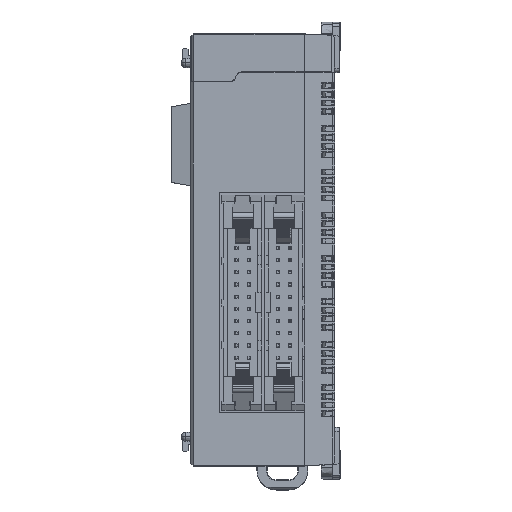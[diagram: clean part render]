
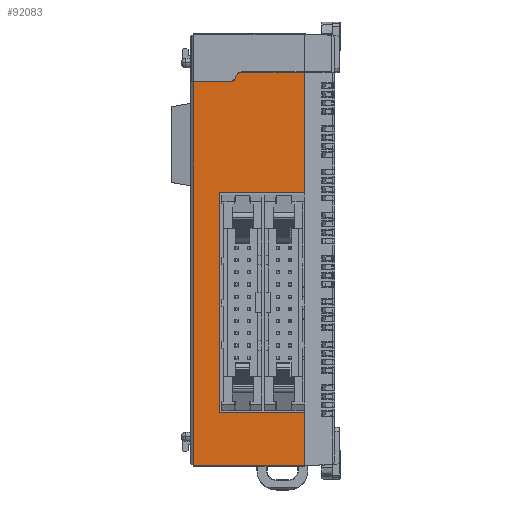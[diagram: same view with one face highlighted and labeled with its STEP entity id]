
A CAD part, top view. The second image highlights one B-rep face of the part: STEP entity #92083.
In plain terms, the highlighted planar face has unit normal (0, 0, 1).
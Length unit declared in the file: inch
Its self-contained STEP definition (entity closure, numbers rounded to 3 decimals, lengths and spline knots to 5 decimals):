
#890 = VECTOR ( 'NONE', #5526, 39.37008 ) ;
#1887 = EDGE_CURVE ( 'NONE', #13217, #110707, #106961, .T. ) ;
#4110 = CARTESIAN_POINT ( 'NONE',  ( -0.60325, 1.42035, 1.18413 ) ) ;
#4467 = VECTOR ( 'NONE', #98803, 39.37008 ) ;
#5526 = DIRECTION ( 'NONE',  ( 0., -1., 0. ) ) ;
#6201 = EDGE_CURVE ( 'NONE', #8551, #60807, #86489, .T. ) ;
#8336 = EDGE_CURVE ( 'NONE', #37599, #69762, #62231, .T. ) ;
#8551 = VERTEX_POINT ( 'NONE', #64874 ) ;
#9493 = VECTOR ( 'NONE', #21761, 39.37008 ) ;
#11255 = EDGE_CURVE ( 'NONE', #29942, #77417, #104400, .T. ) ;
#11435 = VERTEX_POINT ( 'NONE', #16092 ) ;
#13201 = CARTESIAN_POINT ( 'NONE',  ( -0.08661, 1.77468, 1.18413 ) ) ;
#13217 = VERTEX_POINT ( 'NONE', #63080 ) ;
#13926 = DIRECTION ( 'NONE',  ( -1., 0., 0. ) ) ;
#14593 = ORIENTED_EDGE ( 'NONE', *, *, #65060, .T. ) ;
#15268 = AXIS2_PLACEMENT_3D ( 'NONE', #34686, #80601, #36963 ) ;
#16092 = CARTESIAN_POINT ( 'NONE',  ( -0.63735, 1.44003, 1.18413 ) ) ;
#17474 = DIRECTION ( 'NONE',  ( 0., -1., 0. ) ) ;
#17483 = EDGE_CURVE ( 'NONE', #37599, #11435, #46956, .T. ) ;
#18536 = CARTESIAN_POINT ( 'NONE',  ( -1.01969, 1.77468, 1.18413 ) ) ;
#20283 = DIRECTION ( 'NONE',  ( 1., 0., 0. ) ) ;
#20299 = AXIS2_PLACEMENT_3D ( 'NONE', #18536, #29074, #20283 ) ;
#21761 = DIRECTION ( 'NONE',  ( 1., 0., 0. ) ) ;
#22356 = CARTESIAN_POINT ( 'NONE',  ( -0.78543, 0.47047, 1.18413 ) ) ;
#26126 = CARTESIAN_POINT ( 'NONE',  ( -0.08661, -1.76863, 1.18413 ) ) ;
#26231 = CARTESIAN_POINT ( 'NONE',  ( -0.67144, 1.38098, 1.18413 ) ) ;
#27359 = FACE_OUTER_BOUND ( 'NONE', #68412, .T. ) ;
#27551 = CARTESIAN_POINT ( 'NONE',  ( -0.08661, 1.77468, 1.18413 ) ) ;
#28692 = DIRECTION ( 'NONE',  ( 0., -1., 0. ) ) ;
#29074 = DIRECTION ( 'NONE',  ( 0., 0., 1. ) ) ;
#29942 = VERTEX_POINT ( 'NONE', #44272 ) ;
#32056 = ORIENTED_EDGE ( 'NONE', *, *, #34695, .F. ) ;
#34686 = CARTESIAN_POINT ( 'NONE',  ( -0.69418, 1.42035, 1.18413 ) ) ;
#34695 = EDGE_CURVE ( 'NONE', #108931, #71369, #113917, .T. ) ;
#34845 = ORIENTED_EDGE ( 'NONE', *, *, #93616, .F. ) ;
#36833 = CARTESIAN_POINT ( 'NONE',  ( -0.66008, 1.40066, 1.18413 ) ) ;
#36963 = DIRECTION ( 'NONE',  ( 0., -1., 0. ) ) ;
#37599 = VERTEX_POINT ( 'NONE', #36833 ) ;
#39318 = CIRCLE ( 'NONE', #78868, 0.03937 ) ;
#40184 = LINE ( 'NONE', #13201, #890 ) ;
#42648 = DIRECTION ( 'NONE',  ( 1., 0., 0. ) ) ;
#42737 = CARTESIAN_POINT ( 'NONE',  ( -1., -1.76863, 1.18413 ) ) ;
#44197 = CARTESIAN_POINT ( 'NONE',  ( -0.08661, 1.45972, 1.18413 ) ) ;
#44272 = CARTESIAN_POINT ( 'NONE',  ( -0.08661, 0.47047, 1.18413 ) ) ;
#46956 = LINE ( 'NONE', #101110, #54718 ) ;
#46976 = DIRECTION ( 'NONE',  ( 0., -1., 0. ) ) ;
#52846 = CARTESIAN_POINT ( 'NONE',  ( -0.08661, 1.45972, 1.18413 ) ) ;
#54046 = VECTOR ( 'NONE', #42648, 39.37008 ) ;
#54718 = VECTOR ( 'NONE', #56346, 39.37008 ) ;
#56276 = VECTOR ( 'NONE', #96466, 39.37008 ) ;
#56346 = DIRECTION ( 'NONE',  ( 0.5, 0.866, 0. ) ) ;
#57296 = EDGE_CURVE ( 'NONE', #71369, #60807, #40184, .T. ) ;
#58212 = ORIENTED_EDGE ( 'NONE', *, *, #17483, .F. ) ;
#59309 = CARTESIAN_POINT ( 'NONE',  ( -1.01969, -1.76863, 1.18413 ) ) ;
#60807 = VERTEX_POINT ( 'NONE', #26126 ) ;
#60847 = LINE ( 'NONE', #26231, #54046 ) ;
#62231 = CIRCLE ( 'NONE', #15268, 0.03937 ) ;
#62988 = VECTOR ( 'NONE', #17474, 39.37008 ) ;
#63080 = CARTESIAN_POINT ( 'NONE',  ( -0.60325, 1.45972, 1.18413 ) ) ;
#64874 = CARTESIAN_POINT ( 'NONE',  ( -1., -1.76863, 1.18413 ) ) ;
#65060 = EDGE_CURVE ( 'NONE', #111839, #8551, #70386, .T. ) ;
#65808 = LINE ( 'NONE', #22356, #112610 ) ;
#67427 = ORIENTED_EDGE ( 'NONE', *, *, #57296, .F. ) ;
#68154 = ORIENTED_EDGE ( 'NONE', *, *, #11255, .F. ) ;
#68412 = EDGE_LOOP ( 'NONE', ( #68154, #86407, #108341, #84535, #58212, #84951, #113962, #14593, #74728, #67427, #32056, #34845 ) ) ;
#69762 = VERTEX_POINT ( 'NONE', #102249 ) ;
#70386 = LINE ( 'NONE', #42737, #62988 ) ;
#71369 = VERTEX_POINT ( 'NONE', #95536 ) ;
#73789 = PLANE ( 'NONE',  #20299 ) ;
#74728 = ORIENTED_EDGE ( 'NONE', *, *, #6201, .T. ) ;
#75543 = CARTESIAN_POINT ( 'NONE',  ( -1., 1.38098, 1.18413 ) ) ;
#77417 = VERTEX_POINT ( 'NONE', #80478 ) ;
#77689 = CARTESIAN_POINT ( 'NONE',  ( -0.78543, -1.33661, 1.18413 ) ) ;
#78868 = AXIS2_PLACEMENT_3D ( 'NONE', #4110, #100565, #46976 ) ;
#80478 = CARTESIAN_POINT ( 'NONE',  ( -0.78543, 0.47047, 1.18413 ) ) ;
#80601 = DIRECTION ( 'NONE',  ( 0., 0., -1. ) ) ;
#82662 = EDGE_CURVE ( 'NONE', #13217, #11435, #39318, .T. ) ;
#83595 = DIRECTION ( 'NONE',  ( 0., -1., 0. ) ) ;
#84535 = ORIENTED_EDGE ( 'NONE', *, *, #82662, .T. ) ;
#84951 = ORIENTED_EDGE ( 'NONE', *, *, #8336, .T. ) ;
#86407 = ORIENTED_EDGE ( 'NONE', *, *, #106619, .F. ) ;
#86489 = LINE ( 'NONE', #59309, #9493 ) ;
#92023 = EDGE_CURVE ( 'NONE', #111839, #69762, #60847, .T. ) ;
#92083 = ADVANCED_FACE ( 'NONE', ( #27359 ), #73789, .T. ) ;
#93616 = EDGE_CURVE ( 'NONE', #77417, #108931, #65808, .T. ) ;
#94532 = CARTESIAN_POINT ( 'NONE',  ( -0.78543, 0.47047, 1.18413 ) ) ;
#95536 = CARTESIAN_POINT ( 'NONE',  ( -0.08661, -1.33661, 1.18413 ) ) ;
#96466 = DIRECTION ( 'NONE',  ( 1., 0., 0. ) ) ;
#98803 = DIRECTION ( 'NONE',  ( 1., 0., 0. ) ) ;
#100565 = DIRECTION ( 'NONE',  ( 0., 0., 1. ) ) ;
#101110 = CARTESIAN_POINT ( 'NONE',  ( -0.62598, 1.45972, 1.18413 ) ) ;
#102249 = CARTESIAN_POINT ( 'NONE',  ( -0.69418, 1.38098, 1.18413 ) ) ;
#104400 = LINE ( 'NONE', #94532, #107253 ) ;
#106619 = EDGE_CURVE ( 'NONE', #110707, #29942, #107490, .T. ) ;
#106961 = LINE ( 'NONE', #52846, #4467 ) ;
#107253 = VECTOR ( 'NONE', #13926, 39.37008 ) ;
#107490 = LINE ( 'NONE', #27551, #114930 ) ;
#108341 = ORIENTED_EDGE ( 'NONE', *, *, #1887, .F. ) ;
#108931 = VERTEX_POINT ( 'NONE', #114616 ) ;
#110707 = VERTEX_POINT ( 'NONE', #44197 ) ;
#111839 = VERTEX_POINT ( 'NONE', #75543 ) ;
#112610 = VECTOR ( 'NONE', #83595, 39.37008 ) ;
#113917 = LINE ( 'NONE', #77689, #56276 ) ;
#113962 = ORIENTED_EDGE ( 'NONE', *, *, #92023, .F. ) ;
#114616 = CARTESIAN_POINT ( 'NONE',  ( -0.78543, -1.33661, 1.18413 ) ) ;
#114930 = VECTOR ( 'NONE', #28692, 39.37008 ) ;
